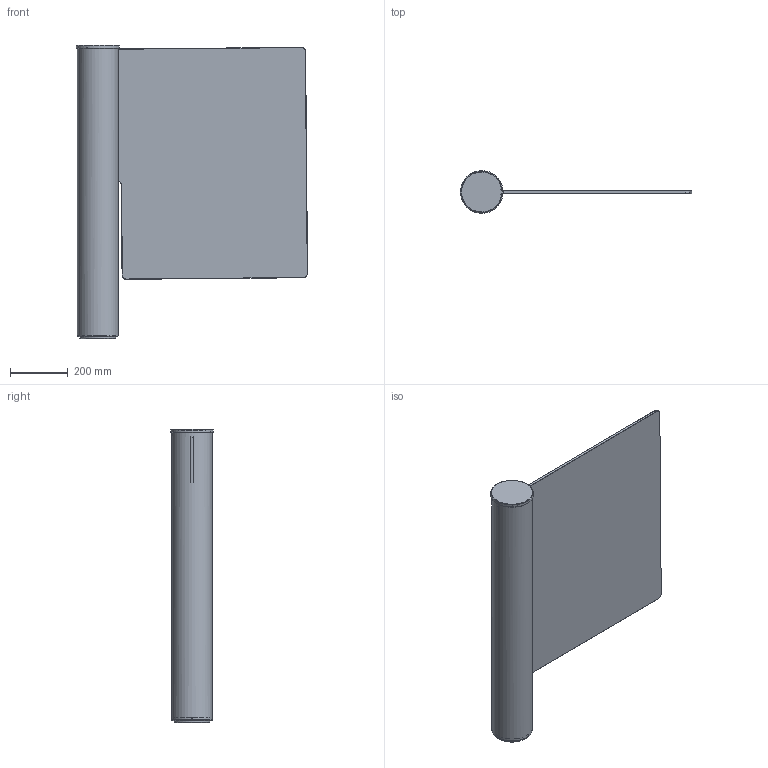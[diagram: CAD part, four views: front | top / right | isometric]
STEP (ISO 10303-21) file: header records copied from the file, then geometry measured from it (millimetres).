
FILE_DESCRIPTION(/* description */ ('Unknown'),/* implementation_level */ '2;1');
FILE_NAME(/* name */ 'WMD-06_650',/* time_stamp */ '2021-11-24T11:26:16+03:00',/* author */ ('Unknown'),/* organization */ ('Unknown'),/* preprocessor_version */ 'ST-DEVELOPER v18.1',/* originating_system */ 'Solid Edge',/* authorisation */ 'Unknown');
FILE_SCHEMA (('CONFIG_CONTROL_DESIGN'));
Length unit declared in the file: millimetre
Products named in the file (29): 栖闉罻41; WMD-06_650_oa_0; WMD-06.002.00_扻豵鵨_oa_1; WMD-06.002.02_扻錪犩; WMD-06.005.00_Ïðèâîä âðàùåíèÿ_oa_2; WMD-06.006.00 昜闉趌oa_3; WMD-06.010.00_填潴朦 镫囹鸰oa_4; WMD-06.700.01_砑僗趌oa_5; 蓦屐屙螓 镫囹鸰oa_6; Ñòÿæêà 100 ìì (íåîòêðûâàþùàÿñÿ); WMD-06.016.00 Ìîòîð-ðåäóêòîð; WMD-06.017.00 Ìîòîð-ðåäóêòîð; WMD-06.013.00 Ìîäóëü âðàùåíèÿ_oa_7; WMD-06.003.00 轉螒oa_8; WMD-06.015.00 楋樏襝鍎飹膻瀖oa_9; Ýëåêòðîìàãíèò RG-T-2551 A12P_oa_10; WMD-06.007.00_栺闀闉_oa_11; WMD-06.020.00 懾譈鴀 闀蠂灚齕鴇_oa_12; WMD-06.720.00 Ïëàòà äàò÷èêà îïòè÷åñêîãî_oa_13; WMD-04.154.00 Óïîð â ñáîðå_oa_14; WMD-06.014.00 砑鳧罻; WMD-06.014.03 砑鳧罻; WMD-06.014.01 Ïëàíêà-Ïî óìîë÷àíèþ; WMD-06.000.01 栺樏鋋; WMD-06.000.03 扻錪犩; WMD-06.000.06 署赅; WMD-06.000.05 êîðïóñ-Ïî óìîë÷àíèþ; ﾂ竟M3x10_DIN_913_淲._ﾀ2; Çàãîòîâêà äëÿ WMD-06.000.09
Assembly tree (32 placements, depth 6):
  栖闉罻41
    WMD-06_650_oa_0
      WMD-06.002.00_扻豵鵨_oa_1
        WMD-06.002.02_扻錪犩
      WMD-06.005.00_Ïðèâîä âðàùåíèÿ_oa_2
        WMD-06.006.00 昜闉趌oa_3
        WMD-06.010.00_填潴朦 镫囹鸰oa_4
          WMD-06.700.01_砑僗趌oa_5
            蓦屐屙螓 镫囹鸰oa_6
        Ñòÿæêà 100 ìì (íåîòêðûâàþùàÿñÿ)
        WMD-06.016.00 Ìîòîð-ðåäóêòîð
        WMD-06.017.00 Ìîòîð-ðåäóêòîð
      WMD-06.013.00 Ìîäóëü âðàùåíèÿ_oa_7
        WMD-06.003.00 轉螒oa_8
        WMD-06.015.00 楋樏襝鍎飹膻瀖oa_9
          Ýëåêòðîìàãíèò RG-T-2551 A12P_oa_10
        WMD-06.007.00_栺闀闉_oa_11
        WMD-06.020.00 懾譈鴀 闀蠂灚齕鴇_oa_12
          WMD-06.720.00 Ïëàòà äàò÷èêà îïòè÷åñêîãî_oa_13
        WMD-04.154.00 Óïîð â ñáîðå_oa_14
      WMD-06.014.00 砑鳧罻
        WMD-06.014.03 砑鳧罻
        WMD-06.014.01 Ïëàíêà-Ïî óìîë÷àíèþ
      WMD-06.000.01 栺樏鋋
      WMD-06.000.03 扻錪犩
      WMD-06.000.06 署赅
      WMD-06.000.05 êîðïóñ-Ïî óìîë÷àíèþ
      ﾂ竟M3x10_DIN_913_淲._ﾀ2  x3
      Çàãîòîâêà äëÿ WMD-06.000.09  x3
Bounding box: 797.29 x 147 x 1011.59 mm (x, y, z)
Volume: 6446752 mm3; surface area: 2170333.1 mm2
Topology: 10 solids, 10 shells, 391 faces, 939 edges, 591 vertices
Faces by surface type: plane 224, cylinder 61, bspline 54, cone 52
Full cylindrical faces by diameter (mm): 2.5 x3, 3 x4, 4.5 x1, 12 x7, 60 x1, 122 x1, 123.5 x2, 128 x2, 141.5 x1, 147 x1
Entity records: 12784 total; most frequent: CARTESIAN_POINT 3975, ORIENTED_EDGE 1640, DIRECTION 1555, EDGE_CURVE 820, VERTEX_POINT 543, AXIS2_PLACEMENT_3D 519, LINE 517, VECTOR 517
